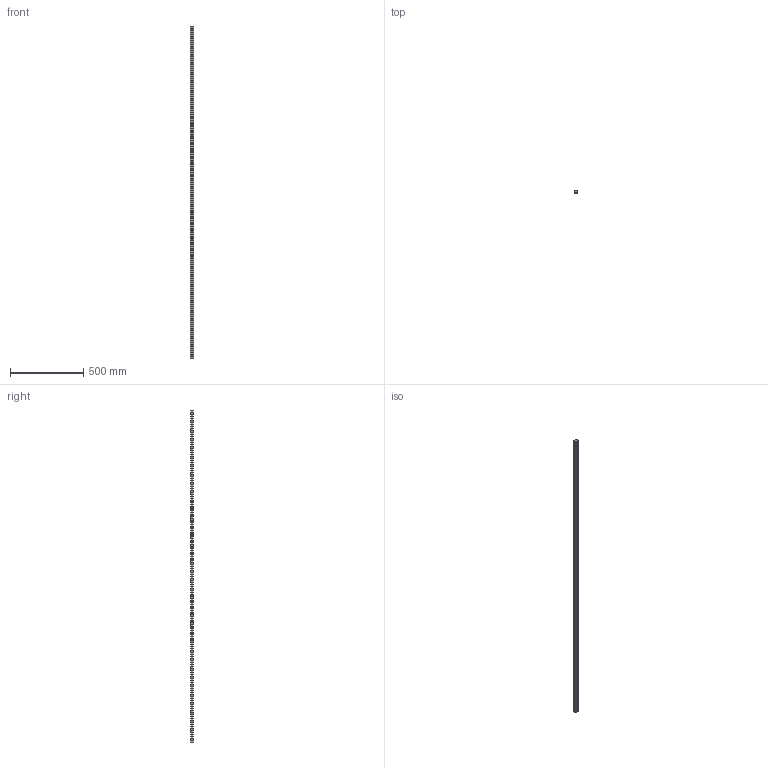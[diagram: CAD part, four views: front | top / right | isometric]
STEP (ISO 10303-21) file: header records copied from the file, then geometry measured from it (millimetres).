
FILE_DESCRIPTION (( 'STEP AP203' ), '1' );
FILE_NAME ('L1016.BL25-2260.step', '2019-06-12T12:10:34', ( '' ), ( '' ), 'SwSTEP 2.0', 'SolidWorks 2017', '' );
FILE_SCHEMA (( 'CONFIG_CONTROL_DESIGN' ));
Length unit declared in the file: millimetre
Products named in the file (1): L1016.BL25-2260
Bounding box: 23 x 19.2 x 2260 mm (x, y, z)
Volume: 832745.9 mm3; surface area: 214050.5 mm2
Topology: 1 solids, 1 shells, 216 faces, 528 edges, 352 vertices
Faces by surface type: cylinder 156, plane 60
Entity records: 6753 total; most frequent: DIRECTION 1274, CARTESIAN_POINT 1097, ORIENTED_EDGE 1056, AXIS2_PLACEMENT_3D 529, EDGE_CURVE 528, VERTEX_POINT 352, EDGE_LOOP 330, CIRCLE 312
